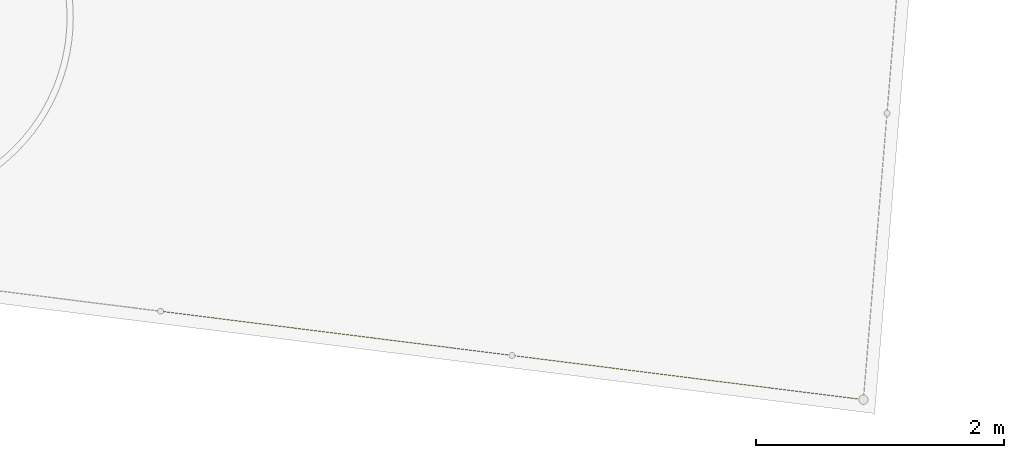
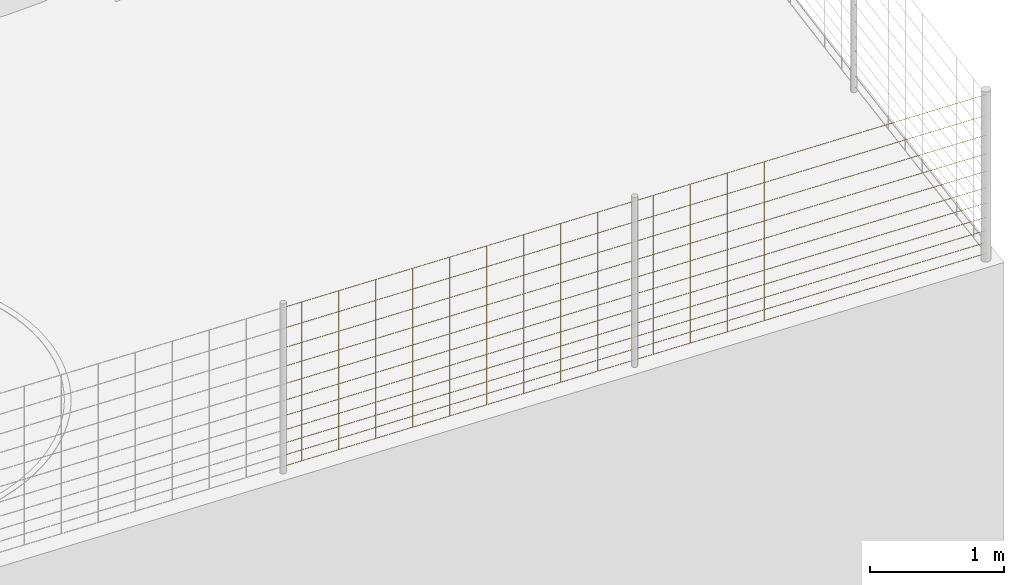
# Not in any storey, part 49 of 72: 2 railings.
"""IFC4 model written with IfcOpenShell, lengths in metres."""

from ifc_helpers import new_model, si_unit, direction, frame, origin_with_axes, place, context, subcontext, project, spatial, polygons, material, element, save


model = new_model("IFC4")

# Units and contexts
model_context = context("Model", 3, precision=1e-05, world=origin_with_axes(), true_north=direction((0.0, 1.0)))
body_context = subcontext(model_context, "Body", "Model", "MODEL_VIEW")
ifc_project = project(units=[si_unit("VOLUMEUNIT", "CUBIC_METRE"), si_unit("LENGTHUNIT", "METRE"), si_unit("AREAUNIT", "SQUARE_METRE")], contexts=[model_context])

# Site
site_placement = place(None, origin_with_axes())
site = spatial("IfcSite", under=ifc_project, at=site_placement, Name="Lares · Rua das Mercês · artigo 4771")

# Railings
ifc_material = material(Name="Aço galvanizado / Stahl verzinkt", Category="steel")
railing_1_placement = place(site_placement, frame((0.0, 0.0, 0.0), z_axis=(0.0, 0.0, 1.0), x_axis=(1.0, -1.03767253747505e-17, 0.0)))
element("IfcRailing", 1, at=railing_1_placement, inside=site, material=ifc_material, Name="Vedação · rede ovelheira 1.004", ObjectType="SHEEP_WIRE_FENCE", PredefinedType="USERDEFINED", context=body_context, shape_type="Tessellation", body=[
    polygons([(82.6085993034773, -6.44576624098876, 15.9037529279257), (82.6085150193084, -6.44726745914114, 15.9022565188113), (82.6082248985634, -6.44874278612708, 15.9037529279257), (82.6083091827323, -6.44724156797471, 15.9052493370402), (79.7802685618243, -6.09000448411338, 15.7061515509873), (79.7801842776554, -6.09150570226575, 15.7046551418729), (79.7798941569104, -6.0929810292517, 15.7061515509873), (79.7799784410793, -6.09147981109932, 15.7076479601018), (82.6085993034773, -6.44576624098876, 16.0037529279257), (82.6085150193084, -6.44726745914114, 16.0022565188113), (82.6082248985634, -6.44874278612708, 16.0037529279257), (82.6083091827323, -6.44724156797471, 16.0052493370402), (79.7802685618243, -6.09000448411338, 15.8061515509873), (79.7801842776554, -6.09150570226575, 15.8046551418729), (79.7798941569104, -6.0929810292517, 15.8061515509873), (79.7799784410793, -6.09147981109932, 15.8076479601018), (82.6085993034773, -6.44576624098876, 16.1137529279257), (82.6085150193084, -6.44726745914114, 16.1122565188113), (82.6082248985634, -6.44874278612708, 16.1137529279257), (82.6083091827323, -6.44724156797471, 16.1152493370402), (79.7802685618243, -6.09000448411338, 15.9161515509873), (79.7801842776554, -6.09150570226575, 15.9146551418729), (79.7798941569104, -6.0929810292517, 15.9161515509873), (79.7799784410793, -6.09147981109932, 15.9176479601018), (82.6085993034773, -6.44576624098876, 16.2337529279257), (82.6085150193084, -6.44726745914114, 16.2322565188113), (82.6082248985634, -6.44874278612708, 16.2337529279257), (82.6083091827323, -6.44724156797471, 16.2352493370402), (79.7802685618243, -6.09000448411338, 16.0361515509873), (79.7801842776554, -6.09150570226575, 16.0346551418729), (79.7798941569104, -6.0929810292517, 16.0361515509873), (79.7799784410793, -6.09147981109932, 16.0376479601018), (82.6085993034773, -6.44576624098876, 16.3637529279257), (82.6085150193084, -6.44726745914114, 16.3622565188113), (82.6082248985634, -6.44874278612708, 16.3637529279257), (82.6083091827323, -6.44724156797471, 16.3652493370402), (79.7802685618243, -6.09000448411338, 16.1661515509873), (79.7801842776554, -6.09150570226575, 16.1646551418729), (79.7798941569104, -6.0929810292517, 16.1661515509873), (79.7799784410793, -6.09147981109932, 16.1676479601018), (82.6085993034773, -6.44576624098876, 16.5037529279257), (82.6085150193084, -6.44726745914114, 16.5022565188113), (82.6082248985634, -6.44874278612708, 16.5037529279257), (82.6083091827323, -6.44724156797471, 16.5052493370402), (79.7802685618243, -6.09000448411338, 16.3061515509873), (79.7801842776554, -6.09150570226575, 16.3046551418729), (79.7798941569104, -6.0929810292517, 16.3061515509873), (79.7799784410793, -6.09147981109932, 16.3076479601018), (82.6085993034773, -6.44576624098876, 16.6537529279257), (82.6085150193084, -6.44726745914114, 16.6522565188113), (82.6082248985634, -6.44874278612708, 16.6537529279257), (82.6083091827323, -6.44724156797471, 16.6552493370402), (79.7802685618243, -6.09000448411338, 16.4561515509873), (79.7801842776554, -6.09150570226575, 16.4546551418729), (79.7798941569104, -6.0929810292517, 16.4561515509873), (79.7799784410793, -6.09147981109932, 16.4576479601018), (82.6085993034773, -6.44576624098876, 16.8137529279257), (82.6085150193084, -6.44726745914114, 16.8122565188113), (82.6082248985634, -6.44874278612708, 16.8137529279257), (82.6083091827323, -6.44724156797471, 16.8152493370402), (79.7802685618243, -6.09000448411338, 16.6161515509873), (79.7801842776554, -6.09150570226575, 16.6146551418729), (79.7798941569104, -6.0929810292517, 16.6161515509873), (79.7799784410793, -6.09147981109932, 16.6176479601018), (82.6085993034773, -6.44576624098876, 16.9837529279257), (82.6085150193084, -6.44726745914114, 16.9822565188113), (82.6082248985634, -6.44874278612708, 16.9837529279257), (82.6083091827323, -6.44724156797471, 16.9852493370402), (79.7802685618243, -6.09000448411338, 16.7861515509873), (79.7801842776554, -6.09150570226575, 16.7846551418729), (79.7798941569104, -6.0929810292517, 16.7861515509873), (79.7799784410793, -6.09147981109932, 16.7876479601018), (82.6085993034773, -6.44576624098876, 17.1637529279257), (82.6085150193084, -6.44726745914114, 17.1622565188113), (82.6082248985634, -6.44874278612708, 17.1637529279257), (82.6083091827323, -6.44724156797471, 17.1652493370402), (79.7802685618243, -6.09000448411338, 16.9661515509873), (79.7801842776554, -6.09150570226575, 16.9646551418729), (79.7798941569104, -6.0929810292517, 16.9661515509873), (79.7799784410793, -6.09147981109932, 16.9676479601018), (82.6085993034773, -6.44576624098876, 17.3537529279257), (82.6085150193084, -6.44726745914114, 17.3522565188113), (82.6082248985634, -6.44874278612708, 17.3537529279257), (82.6083091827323, -6.44724156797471, 17.3552493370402), (79.7802685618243, -6.09000448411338, 17.1561515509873), (79.7801842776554, -6.09150570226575, 17.1546551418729), (79.7798941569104, -6.0929810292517, 17.1561515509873), (79.7799784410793, -6.09147981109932, 17.1576479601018), (82.3107575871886, -6.4083140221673, 15.8829572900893), (82.3092575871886, -6.4098140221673, 15.8829572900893), (82.3107575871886, -6.4113140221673, 15.8829572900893), (82.3122575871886, -6.4098140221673, 15.8829572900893), (82.3107575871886, -6.4083140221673, 17.3329572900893), (82.3092575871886, -6.4098140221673, 17.3329572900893), (82.3107575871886, -6.4113140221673, 17.3329572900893), (82.3122575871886, -6.4098140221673, 17.3329572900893), (82.0131030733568, -6.37087353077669, 15.8621616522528), (82.0116030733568, -6.37237353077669, 15.8621616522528), (82.0131030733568, -6.37387353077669, 15.8621616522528), (82.0146030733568, -6.37237353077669, 15.8621616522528), (82.0131030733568, -6.37087353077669, 17.3121616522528), (82.0116030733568, -6.37237353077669, 17.3121616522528), (82.0131030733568, -6.37387353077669, 17.3121616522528), (82.0146030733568, -6.37237353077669, 17.3121616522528), (81.715448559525, -6.33343303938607, 15.8413660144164), (81.713948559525, -6.33493303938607, 15.8413660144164), (81.715448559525, -6.33643303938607, 15.8413660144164), (81.716948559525, -6.33493303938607, 15.8413660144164), (81.715448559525, -6.33343303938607, 17.2913660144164), (81.713948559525, -6.33493303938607, 17.2913660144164), (81.715448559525, -6.33643303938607, 17.2913660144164), (81.716948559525, -6.33493303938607, 17.2913660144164), (81.4177940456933, -6.29599254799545, 15.82057037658), (81.4162940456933, -6.29749254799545, 15.82057037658), (81.4177940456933, -6.29899254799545, 15.82057037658), (81.4192940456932, -6.29749254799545, 15.82057037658), (81.4177940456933, -6.29599254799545, 17.27057037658), (81.4162940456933, -6.29749254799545, 17.27057037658), (81.4177940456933, -6.29899254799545, 17.27057037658), (81.4192940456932, -6.29749254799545, 17.27057037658), (81.1201395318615, -6.25855205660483, 15.7997747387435), (81.1186395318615, -6.26005205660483, 15.7997747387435), (81.1201395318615, -6.26155205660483, 15.7997747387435), (81.1216395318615, -6.26005205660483, 15.7997747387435), (81.1201395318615, -6.25855205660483, 17.2497747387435), (81.1186395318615, -6.26005205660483, 17.2497747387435), (81.1201395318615, -6.26155205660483, 17.2497747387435), (81.1216395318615, -6.26005205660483, 17.2497747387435), (80.8224850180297, -6.22111156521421, 15.7789791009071), (80.8209850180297, -6.22261156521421, 15.7789791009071), (80.8224850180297, -6.22411156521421, 15.7789791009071), (80.8239850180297, -6.22261156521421, 15.7789791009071), (80.8224850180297, -6.22111156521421, 17.2289791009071), (80.8209850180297, -6.22261156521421, 17.2289791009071), (80.8224850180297, -6.22411156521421, 17.2289791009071), (80.8239850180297, -6.22261156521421, 17.2289791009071), (80.5248305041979, -6.1836710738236, 15.7581834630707), (80.5233305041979, -6.1851710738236, 15.7581834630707), (80.5248305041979, -6.1866710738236, 15.7581834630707), (80.5263305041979, -6.1851710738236, 15.7581834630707), (80.5248305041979, -6.1836710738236, 17.2081834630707), (80.5233305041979, -6.1851710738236, 17.2081834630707), (80.5248305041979, -6.1866710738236, 17.2081834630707), (80.5263305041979, -6.1851710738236, 17.2081834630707), (80.2271759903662, -6.14623058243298, 15.7373878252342), (80.2256759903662, -6.14773058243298, 15.7373878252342), (80.2271759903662, -6.14923058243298, 15.7373878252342), (80.2286759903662, -6.14773058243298, 15.7373878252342), (80.2271759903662, -6.14623058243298, 17.1873878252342), (80.2256759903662, -6.14773058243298, 17.1873878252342), (80.2271759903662, -6.14923058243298, 17.1873878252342), (80.2286759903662, -6.14773058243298, 17.1873878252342), (79.9295214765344, -6.10879009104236, 15.7165921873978), (79.9280214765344, -6.11029009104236, 15.7165921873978), (79.9295214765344, -6.11179009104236, 15.7165921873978), (79.9310214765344, -6.11029009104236, 15.7165921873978), (79.9295214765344, -6.10879009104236, 17.1665921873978), (79.9280214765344, -6.11029009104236, 17.1665921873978), (79.9295214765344, -6.11179009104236, 17.1665921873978), (79.9310214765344, -6.11029009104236, 17.1665921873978)], [[[4, 3, 2, 1]], [[5, 6, 7, 8]], [[1, 2, 6, 5]], [[2, 3, 7, 6]], [[3, 4, 8, 7]], [[4, 1, 5, 8]], [[12, 11, 10, 9]], [[13, 14, 15, 16]], [[9, 10, 14, 13]], [[10, 11, 15, 14]], [[11, 12, 16, 15]], [[12, 9, 13, 16]], [[20, 19, 18, 17]], [[21, 22, 23, 24]], [[17, 18, 22, 21]], [[18, 19, 23, 22]], [[19, 20, 24, 23]], [[20, 17, 21, 24]], [[28, 27, 26, 25]], [[29, 30, 31, 32]], [[25, 26, 30, 29]], [[26, 27, 31, 30]], [[27, 28, 32, 31]], [[28, 25, 29, 32]], [[36, 35, 34, 33]], [[37, 38, 39, 40]], [[33, 34, 38, 37]], [[34, 35, 39, 38]], [[35, 36, 40, 39]], [[36, 33, 37, 40]], [[44, 43, 42, 41]], [[45, 46, 47, 48]], [[41, 42, 46, 45]], [[42, 43, 47, 46]], [[43, 44, 48, 47]], [[44, 41, 45, 48]], [[52, 51, 50, 49]], [[53, 54, 55, 56]], [[49, 50, 54, 53]], [[50, 51, 55, 54]], [[51, 52, 56, 55]], [[52, 49, 53, 56]], [[60, 59, 58, 57]], [[61, 62, 63, 64]], [[57, 58, 62, 61]], [[58, 59, 63, 62]], [[59, 60, 64, 63]], [[60, 57, 61, 64]], [[68, 67, 66, 65]], [[69, 70, 71, 72]], [[65, 66, 70, 69]], [[66, 67, 71, 70]], [[67, 68, 72, 71]], [[68, 65, 69, 72]], [[76, 75, 74, 73]], [[77, 78, 79, 80]], [[73, 74, 78, 77]], [[74, 75, 79, 78]], [[75, 76, 80, 79]], [[76, 73, 77, 80]], [[84, 83, 82, 81]], [[85, 86, 87, 88]], [[81, 82, 86, 85]], [[82, 83, 87, 86]], [[83, 84, 88, 87]], [[84, 81, 85, 88]], [[92, 91, 90, 89]], [[93, 94, 95, 96]], [[89, 90, 94, 93]], [[90, 91, 95, 94]], [[91, 92, 96, 95]], [[92, 89, 93, 96]], [[100, 99, 98, 97]], [[101, 102, 103, 104]], [[97, 98, 102, 101]], [[98, 99, 103, 102]], [[99, 100, 104, 103]], [[100, 97, 101, 104]], [[108, 107, 106, 105]], [[109, 110, 111, 112]], [[105, 106, 110, 109]], [[106, 107, 111, 110]], [[107, 108, 112, 111]], [[108, 105, 109, 112]], [[116, 115, 114, 113]], [[117, 118, 119, 120]], [[113, 114, 118, 117]], [[114, 115, 119, 118]], [[115, 116, 120, 119]], [[116, 113, 117, 120]], [[124, 123, 122, 121]], [[125, 126, 127, 128]], [[121, 122, 126, 125]], [[122, 123, 127, 126]], [[123, 124, 128, 127]], [[124, 121, 125, 128]], [[132, 131, 130, 129]], [[133, 134, 135, 136]], [[129, 130, 134, 133]], [[130, 131, 135, 134]], [[131, 132, 136, 135]], [[132, 129, 133, 136]], [[140, 139, 138, 137]], [[141, 142, 143, 144]], [[137, 138, 142, 141]], [[138, 139, 143, 142]], [[139, 140, 144, 143]], [[140, 137, 141, 144]], [[148, 147, 146, 145]], [[149, 150, 151, 152]], [[145, 146, 150, 149]], [[146, 147, 151, 150]], [[147, 148, 152, 151]], [[148, 145, 149, 152]], [[156, 155, 154, 153]], [[157, 158, 159, 160]], [[153, 154, 158, 157]], [[154, 155, 159, 158]], [[155, 156, 160, 159]], [[156, 153, 157, 160]]]),
])
railing_2_placement = place(site_placement, frame((0.0, 0.0, 0.0), z_axis=(0.0, 0.0, 1.0), x_axis=(1.0, -1.03767253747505e-17, 0.0)))
element("IfcRailing", 2, at=railing_2_placement, inside=site, material=ifc_material, Name="Vedação · rede ovelheira 1.005", ObjectType="SHEEP_WIRE_FENCE", PredefinedType="USERDEFINED", context=body_context, shape_type="Tessellation", body=[
    polygons([(79.7802685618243, -6.09000448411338, 15.7061515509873), (79.7801842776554, -6.09150570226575, 15.7046551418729), (79.7798941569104, -6.0929810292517, 15.7061515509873), (79.7799784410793, -6.09147981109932, 15.7076479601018), (76.9519378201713, -5.73424272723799, 15.508550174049), (76.9518535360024, -5.73574394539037, 15.5070537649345), (76.9515634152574, -5.73721927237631, 15.508550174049), (76.9516476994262, -5.73571805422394, 15.5100465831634), (79.7802685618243, -6.09000448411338, 15.8061515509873), (79.7801842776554, -6.09150570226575, 15.8046551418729), (79.7798941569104, -6.0929810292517, 15.8061515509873), (79.7799784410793, -6.09147981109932, 15.8076479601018), (76.9519378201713, -5.73424272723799, 15.608550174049), (76.9518535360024, -5.73574394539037, 15.6070537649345), (76.9515634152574, -5.73721927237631, 15.608550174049), (76.9516476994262, -5.73571805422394, 15.6100465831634), (79.7802685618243, -6.09000448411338, 15.9161515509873), (79.7801842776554, -6.09150570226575, 15.9146551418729), (79.7798941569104, -6.0929810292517, 15.9161515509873), (79.7799784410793, -6.09147981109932, 15.9176479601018), (76.9519378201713, -5.73424272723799, 15.718550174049), (76.9518535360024, -5.73574394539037, 15.7170537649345), (76.9515634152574, -5.73721927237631, 15.718550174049), (76.9516476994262, -5.73571805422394, 15.7200465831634), (79.7802685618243, -6.09000448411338, 16.0361515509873), (79.7801842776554, -6.09150570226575, 16.0346551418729), (79.7798941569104, -6.0929810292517, 16.0361515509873), (79.7799784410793, -6.09147981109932, 16.0376479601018), (76.9519378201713, -5.73424272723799, 15.838550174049), (76.9518535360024, -5.73574394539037, 15.8370537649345), (76.9515634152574, -5.73721927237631, 15.838550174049), (76.9516476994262, -5.73571805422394, 15.8400465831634), (79.7802685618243, -6.09000448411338, 16.1661515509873), (79.7801842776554, -6.09150570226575, 16.1646551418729), (79.7798941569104, -6.0929810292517, 16.1661515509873), (79.7799784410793, -6.09147981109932, 16.1676479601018), (76.9519378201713, -5.73424272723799, 15.968550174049), (76.9518535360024, -5.73574394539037, 15.9670537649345), (76.9515634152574, -5.73721927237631, 15.968550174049), (76.9516476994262, -5.73571805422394, 15.9700465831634), (79.7802685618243, -6.09000448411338, 16.3061515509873), (79.7801842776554, -6.09150570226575, 16.3046551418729), (79.7798941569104, -6.0929810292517, 16.3061515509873), (79.7799784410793, -6.09147981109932, 16.3076479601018), (76.9519378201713, -5.73424272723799, 16.108550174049), (76.9518535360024, -5.73574394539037, 16.1070537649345), (76.9515634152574, -5.73721927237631, 16.108550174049), (76.9516476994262, -5.73571805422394, 16.1100465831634), (79.7802685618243, -6.09000448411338, 16.4561515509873), (79.7801842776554, -6.09150570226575, 16.4546551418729), (79.7798941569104, -6.0929810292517, 16.4561515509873), (79.7799784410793, -6.09147981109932, 16.4576479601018), (76.9519378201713, -5.73424272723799, 16.258550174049), (76.9518535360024, -5.73574394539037, 16.2570537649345), (76.9515634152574, -5.73721927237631, 16.258550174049), (76.9516476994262, -5.73571805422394, 16.2600465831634), (79.7802685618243, -6.09000448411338, 16.6161515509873), (79.7801842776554, -6.09150570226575, 16.6146551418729), (79.7798941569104, -6.0929810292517, 16.6161515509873), (79.7799784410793, -6.09147981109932, 16.6176479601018), (76.9519378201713, -5.73424272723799, 16.418550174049), (76.9518535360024, -5.73574394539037, 16.4170537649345), (76.9515634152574, -5.73721927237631, 16.418550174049), (76.9516476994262, -5.73571805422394, 16.4200465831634), (79.7802685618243, -6.09000448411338, 16.7861515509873), (79.7801842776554, -6.09150570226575, 16.7846551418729), (79.7798941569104, -6.0929810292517, 16.7861515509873), (79.7799784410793, -6.09147981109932, 16.7876479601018), (76.9519378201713, -5.73424272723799, 16.588550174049), (76.9518535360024, -5.73574394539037, 16.5870537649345), (76.9515634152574, -5.73721927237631, 16.588550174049), (76.9516476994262, -5.73571805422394, 16.5900465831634), (79.7802685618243, -6.09000448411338, 16.9661515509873), (79.7801842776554, -6.09150570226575, 16.9646551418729), (79.7798941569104, -6.0929810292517, 16.9661515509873), (79.7799784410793, -6.09147981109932, 16.9676479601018), (76.9519378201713, -5.73424272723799, 16.768550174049), (76.9518535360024, -5.73574394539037, 16.7670537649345), (76.9515634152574, -5.73721927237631, 16.768550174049), (76.9516476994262, -5.73571805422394, 16.7700465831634), (79.7802685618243, -6.09000448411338, 17.1561515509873), (79.7801842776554, -6.09150570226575, 17.1546551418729), (79.7798941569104, -6.0929810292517, 17.1561515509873), (79.7799784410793, -6.09147981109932, 17.1576479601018), (76.9519378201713, -5.73424272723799, 16.958550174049), (76.9518535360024, -5.73574394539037, 16.9570537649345), (76.9515634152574, -5.73721927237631, 16.958550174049), (76.9516476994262, -5.73571805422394, 16.9600465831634), (79.4824268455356, -6.05255226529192, 15.6853559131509), (79.4809268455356, -6.05405226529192, 15.6853559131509), (79.4824268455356, -6.05555226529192, 15.6853559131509), (79.4839268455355, -6.05405226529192, 15.6853559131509), (79.4824268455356, -6.05255226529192, 17.1353559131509), (79.4809268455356, -6.05405226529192, 17.1353559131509), (79.4824268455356, -6.05555226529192, 17.1353559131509), (79.4839268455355, -6.05405226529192, 17.1353559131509), (79.1847723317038, -6.0151117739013, 15.6645602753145), (79.1832723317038, -6.0166117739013, 15.6645602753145), (79.1847723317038, -6.0181117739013, 15.6645602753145), (79.1862723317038, -6.0166117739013, 15.6645602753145), (79.1847723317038, -6.0151117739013, 17.1145602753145), (79.1832723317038, -6.0166117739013, 17.1145602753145), (79.1847723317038, -6.0181117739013, 17.1145602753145), (79.1862723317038, -6.0166117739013, 17.1145602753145), (78.887117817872, -5.97767128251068, 15.643764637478), (78.885617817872, -5.97917128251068, 15.643764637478), (78.887117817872, -5.98067128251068, 15.643764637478), (78.888617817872, -5.97917128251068, 15.643764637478), (78.887117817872, -5.97767128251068, 17.093764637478), (78.885617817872, -5.97917128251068, 17.093764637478), (78.887117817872, -5.98067128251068, 17.093764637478), (78.888617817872, -5.97917128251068, 17.093764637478), (78.5894633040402, -5.94023079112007, 15.6229689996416), (78.5879633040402, -5.94173079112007, 15.6229689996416), (78.5894633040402, -5.94323079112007, 15.6229689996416), (78.5909633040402, -5.94173079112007, 15.6229689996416), (78.5894633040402, -5.94023079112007, 17.0729689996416), (78.5879633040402, -5.94173079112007, 17.0729689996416), (78.5894633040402, -5.94323079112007, 17.0729689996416), (78.5909633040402, -5.94173079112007, 17.0729689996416), (78.2918087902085, -5.90279029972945, 15.6021733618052), (78.2903087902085, -5.90429029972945, 15.6021733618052), (78.2918087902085, -5.90579029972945, 15.6021733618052), (78.2933087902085, -5.90429029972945, 15.6021733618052), (78.2918087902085, -5.90279029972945, 17.0521733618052), (78.2903087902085, -5.90429029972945, 17.0521733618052), (78.2918087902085, -5.90579029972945, 17.0521733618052), (78.2933087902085, -5.90429029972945, 17.0521733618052), (77.9941542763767, -5.86534980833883, 15.5813777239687), (77.9926542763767, -5.86684980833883, 15.5813777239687), (77.9941542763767, -5.86834980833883, 15.5813777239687), (77.9956542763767, -5.86684980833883, 15.5813777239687), (77.9941542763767, -5.86534980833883, 17.0313777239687), (77.9926542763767, -5.86684980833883, 17.0313777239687), (77.9941542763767, -5.86834980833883, 17.0313777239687), (77.9956542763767, -5.86684980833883, 17.0313777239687), (77.6964997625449, -5.82790931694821, 15.5605820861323), (77.6949997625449, -5.82940931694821, 15.5605820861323), (77.6964997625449, -5.83090931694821, 15.5605820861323), (77.6979997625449, -5.82940931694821, 15.5605820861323), (77.6964997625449, -5.82790931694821, 17.0105820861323), (77.6949997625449, -5.82940931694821, 17.0105820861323), (77.6964997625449, -5.83090931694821, 17.0105820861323), (77.6979997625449, -5.82940931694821, 17.0105820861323), (77.3988452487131, -5.79046882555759, 15.5397864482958), (77.3973452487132, -5.79196882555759, 15.5397864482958), (77.3988452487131, -5.79346882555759, 15.5397864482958), (77.4003452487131, -5.79196882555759, 15.5397864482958), (77.3988452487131, -5.79046882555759, 16.9897864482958), (77.3973452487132, -5.79196882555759, 16.9897864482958), (77.3988452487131, -5.79346882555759, 16.9897864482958), (77.4003452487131, -5.79196882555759, 16.9897864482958), (77.1011907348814, -5.75302833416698, 15.5189908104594), (77.0996907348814, -5.75452833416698, 15.5189908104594), (77.1011907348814, -5.75602833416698, 15.5189908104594), (77.1026907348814, -5.75452833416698, 15.5189908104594), (77.1011907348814, -5.75302833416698, 16.9689908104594), (77.0996907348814, -5.75452833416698, 16.9689908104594), (77.1011907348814, -5.75602833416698, 16.9689908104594), (77.1026907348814, -5.75452833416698, 16.9689908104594)], [[[4, 3, 2, 1]], [[5, 6, 7, 8]], [[1, 2, 6, 5]], [[2, 3, 7, 6]], [[3, 4, 8, 7]], [[4, 1, 5, 8]], [[12, 11, 10, 9]], [[13, 14, 15, 16]], [[9, 10, 14, 13]], [[10, 11, 15, 14]], [[11, 12, 16, 15]], [[12, 9, 13, 16]], [[20, 19, 18, 17]], [[21, 22, 23, 24]], [[17, 18, 22, 21]], [[18, 19, 23, 22]], [[19, 20, 24, 23]], [[20, 17, 21, 24]], [[28, 27, 26, 25]], [[29, 30, 31, 32]], [[25, 26, 30, 29]], [[26, 27, 31, 30]], [[27, 28, 32, 31]], [[28, 25, 29, 32]], [[36, 35, 34, 33]], [[37, 38, 39, 40]], [[33, 34, 38, 37]], [[34, 35, 39, 38]], [[35, 36, 40, 39]], [[36, 33, 37, 40]], [[44, 43, 42, 41]], [[45, 46, 47, 48]], [[41, 42, 46, 45]], [[42, 43, 47, 46]], [[43, 44, 48, 47]], [[44, 41, 45, 48]], [[52, 51, 50, 49]], [[53, 54, 55, 56]], [[49, 50, 54, 53]], [[50, 51, 55, 54]], [[51, 52, 56, 55]], [[52, 49, 53, 56]], [[60, 59, 58, 57]], [[61, 62, 63, 64]], [[57, 58, 62, 61]], [[58, 59, 63, 62]], [[59, 60, 64, 63]], [[60, 57, 61, 64]], [[68, 67, 66, 65]], [[69, 70, 71, 72]], [[65, 66, 70, 69]], [[66, 67, 71, 70]], [[67, 68, 72, 71]], [[68, 65, 69, 72]], [[76, 75, 74, 73]], [[77, 78, 79, 80]], [[73, 74, 78, 77]], [[74, 75, 79, 78]], [[75, 76, 80, 79]], [[76, 73, 77, 80]], [[84, 83, 82, 81]], [[85, 86, 87, 88]], [[81, 82, 86, 85]], [[82, 83, 87, 86]], [[83, 84, 88, 87]], [[84, 81, 85, 88]], [[92, 91, 90, 89]], [[93, 94, 95, 96]], [[89, 90, 94, 93]], [[90, 91, 95, 94]], [[91, 92, 96, 95]], [[92, 89, 93, 96]], [[100, 99, 98, 97]], [[101, 102, 103, 104]], [[97, 98, 102, 101]], [[98, 99, 103, 102]], [[99, 100, 104, 103]], [[100, 97, 101, 104]], [[108, 107, 106, 105]], [[109, 110, 111, 112]], [[105, 106, 110, 109]], [[106, 107, 111, 110]], [[107, 108, 112, 111]], [[108, 105, 109, 112]], [[116, 115, 114, 113]], [[117, 118, 119, 120]], [[113, 114, 118, 117]], [[114, 115, 119, 118]], [[115, 116, 120, 119]], [[116, 113, 117, 120]], [[124, 123, 122, 121]], [[125, 126, 127, 128]], [[121, 122, 126, 125]], [[122, 123, 127, 126]], [[123, 124, 128, 127]], [[124, 121, 125, 128]], [[132, 131, 130, 129]], [[133, 134, 135, 136]], [[129, 130, 134, 133]], [[130, 131, 135, 134]], [[131, 132, 136, 135]], [[132, 129, 133, 136]], [[140, 139, 138, 137]], [[141, 142, 143, 144]], [[137, 138, 142, 141]], [[138, 139, 143, 142]], [[139, 140, 144, 143]], [[140, 137, 141, 144]], [[148, 147, 146, 145]], [[149, 150, 151, 152]], [[145, 146, 150, 149]], [[146, 147, 151, 150]], [[147, 148, 152, 151]], [[148, 145, 149, 152]], [[156, 155, 154, 153]], [[157, 158, 159, 160]], [[153, 154, 158, 157]], [[154, 155, 159, 158]], [[155, 156, 160, 159]], [[156, 153, 157, 160]]]),
])

save(model, "model.ifc")
